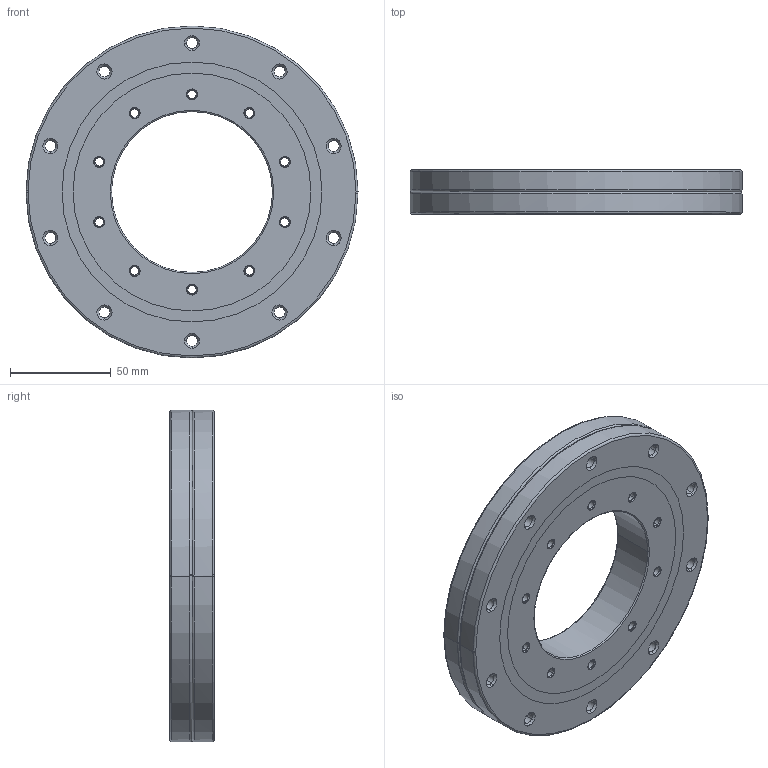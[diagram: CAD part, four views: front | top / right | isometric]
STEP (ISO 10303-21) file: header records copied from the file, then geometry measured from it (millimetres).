
FILE_DESCRIPTION(('no description'),'unknown implementation level');
FILE_NAME('CRBD08022A_42.stp',' ',('HIWIN GmbH'),('CADClick - KiM GmbH - www.kimweb.de'),'unknown preprocess','ACIS','unknown authorization');
FILE_SCHEMA(('automotive_design'));
Length unit declared in the file: millimetre
Products named in the file (25): CRBD08022A_1; CRBD08022A_2; CRBD08022A_3; CRBD08022A_4; CRBD08022A_5; CRBD08022A_6; CRBD08022A_7; CRBD08022A_8; CRBD08022A_9; CRBD08022A_10; CRBD08022A_11; CRBD08022A_12; CRBD08022A_13; CRBD08022A_14; CRBD08022A_15; CRBD08022A_16; CRBD08022A_17; CRBD08022A_18; CRBD08022A_19; CRBD08022A_20; CRBD08022A_21; CRBD08022A_22; CRBD08022A_23; CRBD08022A_24; CRBD08022A
Bounding box: 165 x 22 x 165 mm (x, y, z)
Volume: 305445.2 mm3; surface area: 97291.7 mm2
Topology: 5 solids, 25 shells, 404 faces, 1040 edges, 676 vertices
Faces by surface type: cone 240, cylinder 120, torus 24, plane 20
Entity records: 24297 total; most frequent: DIRECTION 2558, CARTESIAN_POINT 2145, ORIENTED_EDGE 2000, STYLED_ITEM 1985, PRESENTATION_STYLE_ASSIGNMENT 1985, COLOUR_RGB 1985, AXIS2_PLACEMENT_3D 1089, EDGE_CURVE 1040
